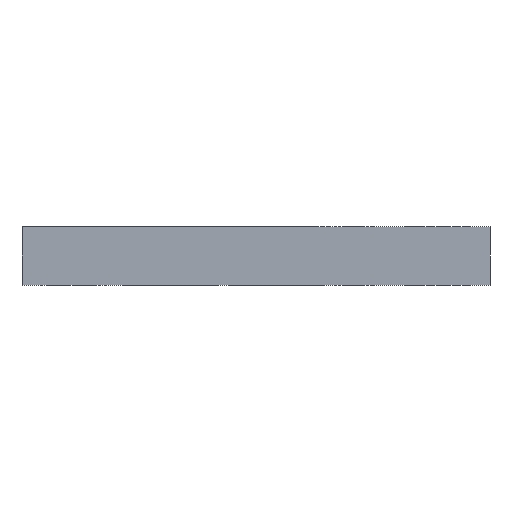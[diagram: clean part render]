
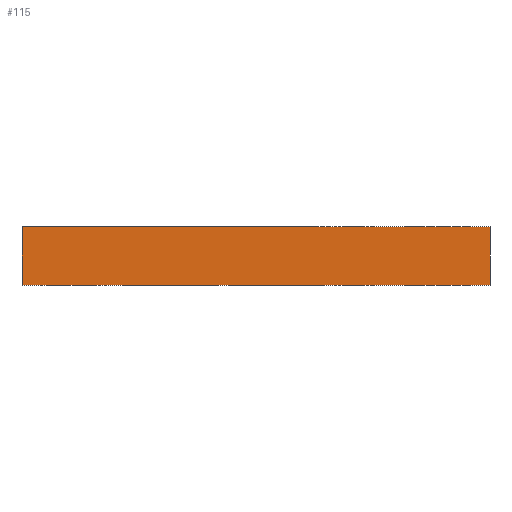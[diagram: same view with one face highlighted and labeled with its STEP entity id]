
A CAD part, left-side view. The second image highlights one B-rep face of the part: STEP entity #115.
In plain terms, the highlighted planar face has unit normal (-1, 0, 0).
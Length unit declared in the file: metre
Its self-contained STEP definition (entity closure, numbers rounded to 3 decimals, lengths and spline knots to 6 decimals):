
#115=ADVANCED_FACE('',(#299),#300,.F.);
#299=FACE_OUTER_BOUND('',#535,.T.);
#300=PLANE('',#536);
#535=EDGE_LOOP('',(#821,#822,#823,#824));
#536=AXIS2_PLACEMENT_3D('',#825,#826,#827);
#821=ORIENTED_EDGE('',*,*,#1191,.T.);
#822=ORIENTED_EDGE('',*,*,#1198,.F.);
#823=ORIENTED_EDGE('',*,*,#1155,.F.);
#824=ORIENTED_EDGE('',*,*,#1199,.T.);
#825=CARTESIAN_POINT('',(-0.1524,0.1524,0.0));
#826=DIRECTION('',(1.0,0.0,0.0));
#827=DIRECTION('',(0.0,0.0,-1.0));
#1155=EDGE_CURVE('',#1346,#1341,#1348,.T.);
#1191=EDGE_CURVE('',#1418,#1415,#1419,.T.);
#1198=EDGE_CURVE('',#1341,#1415,#1429,.T.);
#1199=EDGE_CURVE('',#1346,#1418,#1430,.T.);
#1341=VERTEX_POINT('',#1617);
#1346=VERTEX_POINT('',#1624);
#1348=LINE('',#1627,#1628);
#1415=VERTEX_POINT('',#1705);
#1418=VERTEX_POINT('',#1709);
#1419=LINE('',#1710,#1711);
#1429=LINE('',#1724,#1725);
#1430=LINE('',#1726,#1727);
#1617=CARTESIAN_POINT('',(-0.1524,0.1524,0.0));
#1624=CARTESIAN_POINT('',(-0.1524,-0.1524,0.0));
#1627=CARTESIAN_POINT('',(-0.1524,0.1524,0.0));
#1628=VECTOR('',#1939,1.0);
#1705=CARTESIAN_POINT('',(-0.1524,0.1524,0.0381));
#1709=CARTESIAN_POINT('',(-0.1524,-0.1524,0.0381));
#1710=CARTESIAN_POINT('',(-0.1524,0.1524,0.0381));
#1711=VECTOR('',#2020,1.0);
#1724=CARTESIAN_POINT('',(-0.1524,0.1524,0.0));
#1725=VECTOR('',#2030,1.0);
#1726=CARTESIAN_POINT('',(-0.1524,-0.1524,0.0));
#1727=VECTOR('',#2031,1.0);
#1939=DIRECTION('',(0.0,1.0,0.0));
#2020=DIRECTION('',(0.0,1.0,0.0));
#2030=DIRECTION('',(0.0,0.0,1.0));
#2031=DIRECTION('',(0.0,0.0,1.0));
